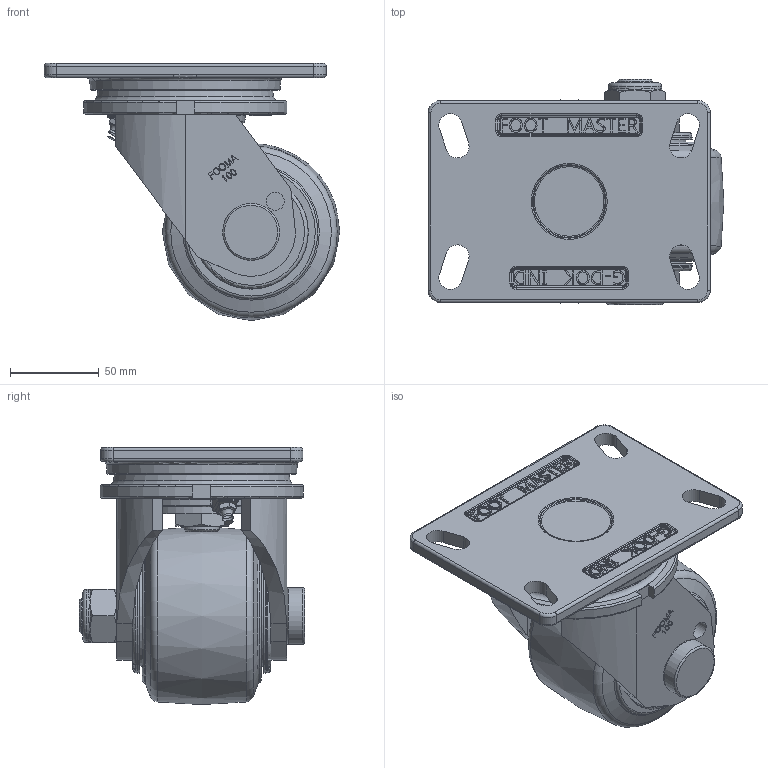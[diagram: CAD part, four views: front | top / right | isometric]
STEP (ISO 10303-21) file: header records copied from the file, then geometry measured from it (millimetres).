
FILE_DESCRIPTION(/* description */ (''),/* implementation_level */ '2;1');
FILE_NAME(/* name */ '\\192.168.10.38\지덕공유\1.기술연구소\손동원\GF-SERIES\3D\GF-100-ASF-MUD.stp',/* time_stamp */ '2023-07-25T13:59:21+09:00',/* author */ ('admin'),/* organization */ (''),/* preprocessor_version */ 'ST-DEVELOPER v18.1',/* originating_system */ 'Autodesk Inventor 2021',/* authorisation */ '');
FILE_SCHEMA (('AUTOMOTIVE_DESIGN { 1 0 10303 214 3 1 1 }'));
Length unit declared in the file: millimetre
Products named in the file (1): GF-100-ASF-MUD
Bounding box: 166.63 x 127 x 145 mm (x, y, z)
Volume: 1001204.8 mm3; surface area: 127099.6 mm2
Topology: 1 solids, 3 shells, 1059 faces, 2771 edges, 1780 vertices
Faces by surface type: bspline 402, plane 389, cylinder 115, torus 90, cone 55, sphere 8
Full cylindrical faces by diameter (mm): 6 x1, 10 x2, 20 x4, 25 x2, 30 x1, 32 x1, 32.334 x2, 33 x2, 39.666 x2, 57 x2, 59 x1, 64.519 x2
Entity records: 36552 total; most frequent: CARTESIAN_POINT 12933, ORIENTED_EDGE 5534, DIRECTION 3781, EDGE_CURVE 2767, VERTEX_POINT 1787, LINE 1353, VECTOR 1353, AXIS2_PLACEMENT_3D 1214
